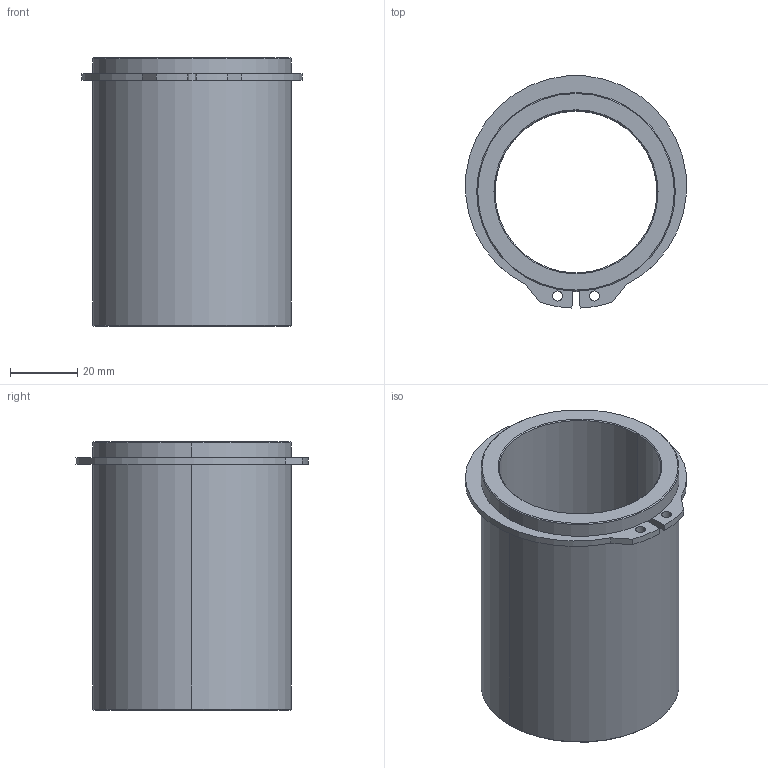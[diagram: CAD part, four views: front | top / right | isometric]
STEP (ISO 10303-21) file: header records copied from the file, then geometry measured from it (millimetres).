
FILE_DESCRIPTION((''),'2;1');
FILE_NAME('C13_048_080.stp','2008-12-17T16:07:59',(''),(''),'Mechanical Desktop 2009','Mechanical Desktop 2009',', , ');
FILE_SCHEMA(('CONFIG_CONTROL_DESIGN'));
Length unit declared in the file: millimetre
Products named in the file (2): Product; blmdl1
Assembly tree (1 placements, depth 2):
  Product
    blmdl1
Bounding box: 65.91 x 69.23 x 80 mm (x, y, z)
Volume: 75084.5 mm3; surface area: 31907.5 mm2
Topology: 2 solids, 2 shells, 34 faces, 76 edges, 48 vertices
Faces by surface type: cylinder 16, plane 10, cone 8
Entity records: 1075 total; most frequent: DIRECTION 188, CARTESIAN_POINT 160, ORIENTED_EDGE 152, AXIS2_PLACEMENT_3D 76, EDGE_CURVE 76, VERTEX_POINT 48, EDGE_LOOP 42, CIRCLE 40
